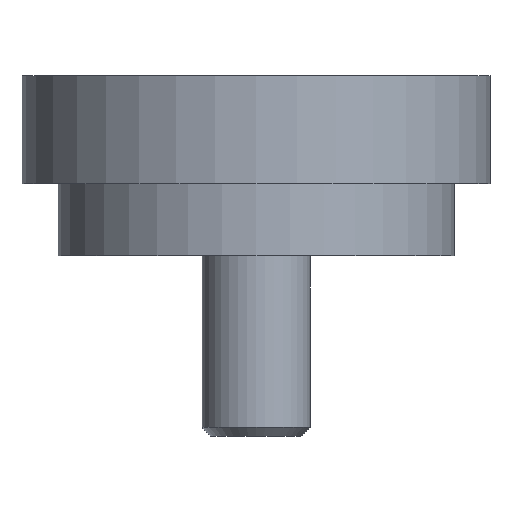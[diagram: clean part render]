
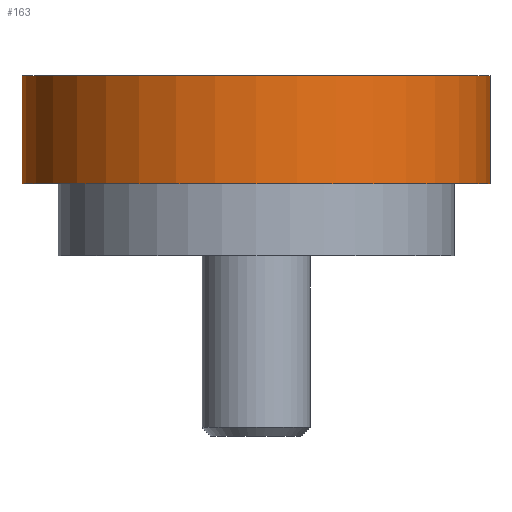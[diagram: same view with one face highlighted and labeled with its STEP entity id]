
A CAD part, front view. The second image highlights one B-rep face of the part: STEP entity #163.
In plain terms, the highlighted cylindrical face has radius 6.5 mm (diameter 13 mm), a partial arc.
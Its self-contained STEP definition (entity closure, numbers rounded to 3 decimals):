
#163 = ADVANCED_FACE ( 'NONE', ( #720 ), #1706, .T. ) ;
#199 = CARTESIAN_POINT ( 'NONE',  ( 0., 0., -3. ) ) ;
#290 = EDGE_CURVE ( 'NONE', #489, #1769, #796, .T. ) ;
#453 = LINE ( 'NONE', #2510, #2093 ) ;
#460 = CARTESIAN_POINT ( 'NONE',  ( -6.5, 0., 0. ) ) ;
#472 = ORIENTED_EDGE ( 'NONE', *, *, #895, .F. ) ;
#477 = CARTESIAN_POINT ( 'NONE',  ( 0., 0., 0. ) ) ;
#489 = VERTEX_POINT ( 'NONE', #2076 ) ;
#493 = DIRECTION ( 'NONE',  ( 0., 0., 1. ) ) ;
#580 = DIRECTION ( 'NONE',  ( 1., 0., 0. ) ) ;
#663 = ORIENTED_EDGE ( 'NONE', *, *, #2407, .T. ) ;
#720 = FACE_OUTER_BOUND ( 'NONE', #864, .T. ) ;
#796 = LINE ( 'NONE', #1205, #2101 ) ;
#861 = CARTESIAN_POINT ( 'NONE',  ( 6.5, 0., 0. ) ) ;
#864 = EDGE_LOOP ( 'NONE', ( #2204, #663, #2371, #472 ) ) ;
#895 = EDGE_CURVE ( 'NONE', #1772, #1769, #2528, .T. ) ;
#947 = VERTEX_POINT ( 'NONE', #1522 ) ;
#1050 = DIRECTION ( 'NONE',  ( 0., 0., 1. ) ) ;
#1143 = CARTESIAN_POINT ( 'NONE',  ( 0., 0., 3.122 ) ) ;
#1167 = DIRECTION ( 'NONE',  ( 0., 0., 1. ) ) ;
#1205 = CARTESIAN_POINT ( 'NONE',  ( 6.5, 0., 3.122 ) ) ;
#1365 = DIRECTION ( 'NONE',  ( 0., 0., 1. ) ) ;
#1391 = EDGE_CURVE ( 'NONE', #947, #1772, #453, .T. ) ;
#1421 = CIRCLE ( 'NONE', #2260, 6.5 ) ;
#1522 = CARTESIAN_POINT ( 'NONE',  ( -6.5, 0., -3. ) ) ;
#1536 = DIRECTION ( 'NONE',  ( 1., 0., 0. ) ) ;
#1706 = CYLINDRICAL_SURFACE ( 'NONE', #2223, 6.5 ) ;
#1769 = VERTEX_POINT ( 'NONE', #861 ) ;
#1772 = VERTEX_POINT ( 'NONE', #460 ) ;
#1893 = DIRECTION ( 'NONE',  ( 1., 0., 0. ) ) ;
#2076 = CARTESIAN_POINT ( 'NONE',  ( 6.5, 0., -3. ) ) ;
#2093 = VECTOR ( 'NONE', #2136, 1000. ) ;
#2101 = VECTOR ( 'NONE', #1167, 1000. ) ;
#2136 = DIRECTION ( 'NONE',  ( 0., 0., 1. ) ) ;
#2204 = ORIENTED_EDGE ( 'NONE', *, *, #1391, .F. ) ;
#2223 = AXIS2_PLACEMENT_3D ( 'NONE', #1143, #493, #1536 ) ;
#2260 = AXIS2_PLACEMENT_3D ( 'NONE', #199, #1365, #580 ) ;
#2355 = AXIS2_PLACEMENT_3D ( 'NONE', #477, #1050, #1893 ) ;
#2371 = ORIENTED_EDGE ( 'NONE', *, *, #290, .T. ) ;
#2407 = EDGE_CURVE ( 'NONE', #947, #489, #1421, .T. ) ;
#2510 = CARTESIAN_POINT ( 'NONE',  ( -6.5, 0., 3.122 ) ) ;
#2528 = CIRCLE ( 'NONE', #2355, 6.5 ) ;
